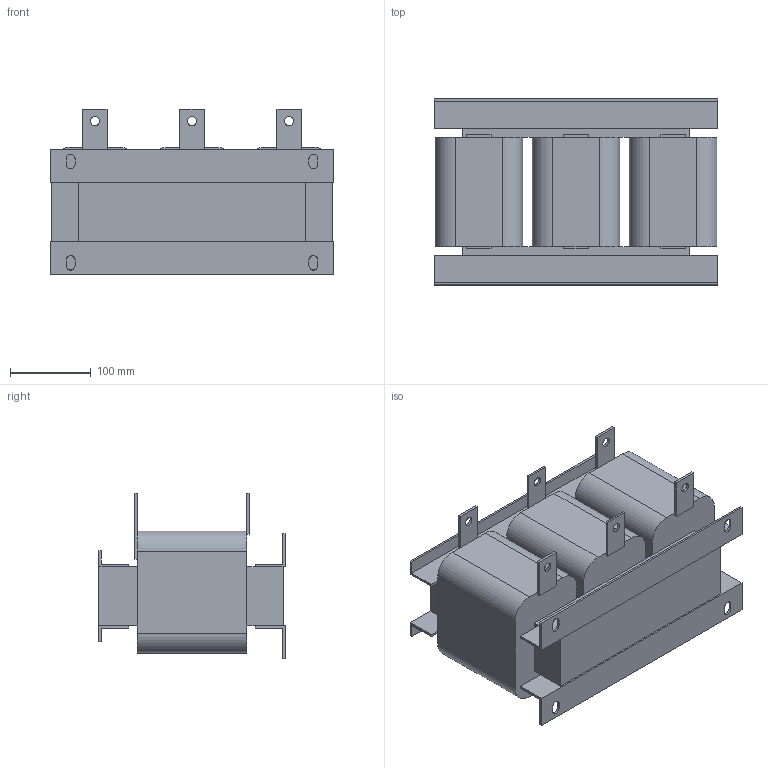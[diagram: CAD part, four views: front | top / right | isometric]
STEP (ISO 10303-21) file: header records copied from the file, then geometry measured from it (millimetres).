
FILE_DESCRIPTION(/* description */ (''),/* implementation_level */ '2;1');
FILE_NAME(/* name */ 'E:\Работа\Веда МК (Данфосс)\!Текущие задачи\2024.08.30 3D модели\Дроссели\ACO 1-проц 660 В\STP\ACO-C-0218-T6.stp',/* time_stamp */ '2024-10-31T16:08:57+04:00',/* author */ ('Александр (огранич)'),/* organization */ (''),/* preprocessor_version */ 'ST-DEVELOPER v18.1',/* originating_system */ 'Autodesk Inventor 2021',/* authorisation */ '');
FILE_SCHEMA (('AUTOMOTIVE_DESIGN { 1 0 10303 214 3 1 1 }'));
Length unit declared in the file: millimetre
Products named in the file (1): ACO-0015-T4-4
Bounding box: 350 x 230 x 205 mm (x, y, z)
Volume: 8591410.6 mm3; surface area: 530132.3 mm2
Topology: 3 solids, 3 shells, 136 faces, 373 edges, 239 vertices
Faces by surface type: plane 110, cylinder 26
Full cylindrical faces by diameter (mm): 11 x6
Entity records: 4327 total; most frequent: CARTESIAN_POINT 749, ORIENTED_EDGE 746, DIRECTION 702, EDGE_CURVE 373, LINE 318, VECTOR 318, VERTEX_POINT 239, AXIS2_PLACEMENT_3D 192
